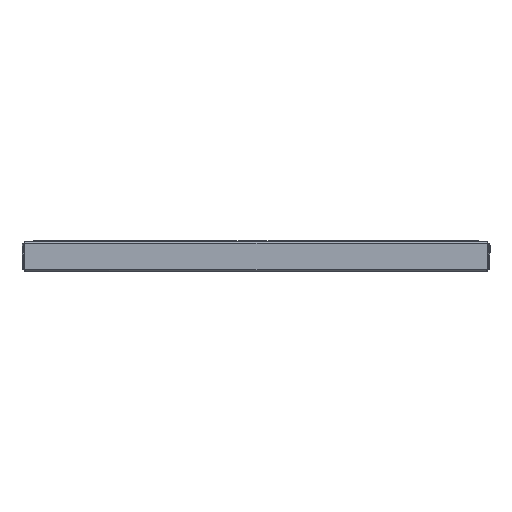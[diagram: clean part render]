
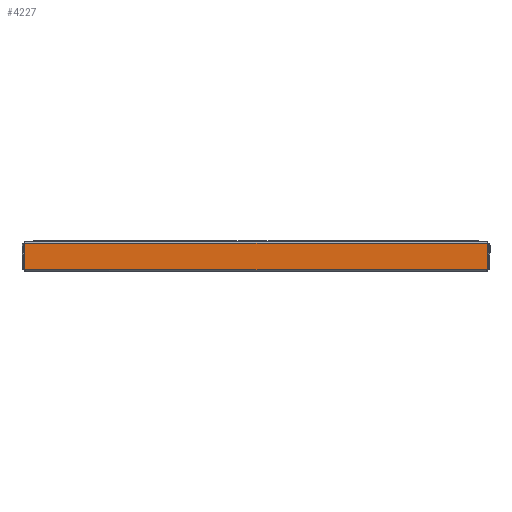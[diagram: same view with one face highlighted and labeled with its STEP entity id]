
A CAD part, top view. The second image highlights one B-rep face of the part: STEP entity #4227.
In plain terms, the highlighted planar face has unit normal (0, 0, 1) as drawn and (0, -1, 0) by its records, which use the part's own axes.
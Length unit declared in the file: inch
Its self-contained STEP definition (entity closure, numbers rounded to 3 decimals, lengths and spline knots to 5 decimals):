
#1261 = ORIENTED_EDGE ( 'NONE', *, *, #2389, .T. ) ;
#1262 = ORIENTED_EDGE ( 'NONE', *, *, #2367, .F. ) ;
#1263 = ORIENTED_EDGE ( 'NONE', *, *, #2323, .F. ) ;
#1264 = ORIENTED_EDGE ( 'NONE', *, *, #2388, .F. ) ;
#1265 = ORIENTED_EDGE ( 'NONE', *, *, #2369, .T. ) ;
#1266 = ORIENTED_EDGE ( 'NONE', *, *, #2377, .T. ) ;
#2323 = EDGE_CURVE ( 'NONE', #10839, #10842, #6397, .T. ) ;
#2367 = EDGE_CURVE ( 'NONE', #10842, #10845, #6474, .T. ) ;
#2369 = EDGE_CURVE ( 'NONE', #10836, #10863, #6478, .T. ) ;
#2377 = EDGE_CURVE ( 'NONE', #10863, #10866, #6494, .T. ) ;
#2388 = EDGE_CURVE ( 'NONE', #10836, #10839, #6516, .T. ) ;
#2389 = EDGE_CURVE ( 'NONE', #10866, #10845, #6477, .T. ) ;
#3031 = EDGE_LOOP ( 'NONE', ( #1261, #1262, #1263, #1264, #1265, #1266 ) ) ;
#4227 = ADVANCED_FACE ( 'NONE', ( #9876 ), #9302, .F. ) ;
#6397 = LINE ( 'NONE', #8617, #6398 ) ;
#6398 = VECTOR ( 'NONE', #8618, 39.37008 ) ;
#6474 = LINE ( 'NONE', #8717, #6475 ) ;
#6475 = VECTOR ( 'NONE', #8718, 39.37008 ) ;
#6477 = LINE ( 'NONE', #8735, #6518 ) ;
#6478 = LINE ( 'NONE', #8721, #6479 ) ;
#6479 = VECTOR ( 'NONE', #8722, 39.37008 ) ;
#6494 = LINE ( 'NONE', #8737, #6495 ) ;
#6495 = VECTOR ( 'NONE', #8738, 39.37008 ) ;
#6516 = LINE ( 'NONE', #8760, #6517 ) ;
#6517 = VECTOR ( 'NONE', #8761, 39.37008 ) ;
#6518 = VECTOR ( 'NONE', #8763, 39.37008 ) ;
#8065 = AXIS2_PLACEMENT_3D ( 'NONE', #9297, #9307, #9308 ) ;
#8617 = CARTESIAN_POINT ( 'NONE',  ( -31.39743, -14.9405, 0.162 ) ) ;
#8618 = DIRECTION ( 'NONE',  ( -1., 0., 0. ) ) ;
#8717 = CARTESIAN_POINT ( 'NONE',  ( -31.40443, -14.9405, 0.162 ) ) ;
#8718 = DIRECTION ( 'NONE',  ( 0., 0., 1. ) ) ;
#8721 = CARTESIAN_POINT ( 'NONE',  ( 31.39743, -14.9405, 0.162 ) ) ;
#8722 = DIRECTION ( 'NONE',  ( 1., 0., 0. ) ) ;
#8735 = CARTESIAN_POINT ( 'NONE',  ( 31.40443, -14.9405, 3.775 ) ) ;
#8737 = CARTESIAN_POINT ( 'NONE',  ( 31.40443, -14.9405, 0.162 ) ) ;
#8738 = DIRECTION ( 'NONE',  ( 0., 0., 1. ) ) ;
#8760 = CARTESIAN_POINT ( 'NONE',  ( -31.4765, -14.9405, 0.162 ) ) ;
#8761 = DIRECTION ( 'NONE',  ( -1., 0., 0. ) ) ;
#8763 = DIRECTION ( 'NONE',  ( -1., 0., 0. ) ) ;
#9297 = CARTESIAN_POINT ( 'NONE',  ( -31.4765, -14.9405, 3.937 ) ) ;
#9302 = PLANE ( 'NONE',  #8065 ) ;
#9307 = DIRECTION ( 'NONE',  ( 0., 1., 0. ) ) ;
#9308 = DIRECTION ( 'NONE',  ( 0., 0., 1. ) ) ;
#9876 = FACE_OUTER_BOUND ( 'NONE', #3031, .T. ) ;
#10836 = VERTEX_POINT ( 'NONE', #11300 ) ;
#10839 = VERTEX_POINT ( 'NONE', #11303 ) ;
#10842 = VERTEX_POINT ( 'NONE', #11306 ) ;
#10845 = VERTEX_POINT ( 'NONE', #11309 ) ;
#10863 = VERTEX_POINT ( 'NONE', #11327 ) ;
#10866 = VERTEX_POINT ( 'NONE', #11330 ) ;
#11300 = CARTESIAN_POINT ( 'NONE',  ( 31.39743, -14.9405, 0.162 ) ) ;
#11303 = CARTESIAN_POINT ( 'NONE',  ( -31.39743, -14.9405, 0.162 ) ) ;
#11306 = CARTESIAN_POINT ( 'NONE',  ( -31.40443, -14.9405, 0.162 ) ) ;
#11309 = CARTESIAN_POINT ( 'NONE',  ( -31.40443, -14.9405, 3.775 ) ) ;
#11327 = CARTESIAN_POINT ( 'NONE',  ( 31.40443, -14.9405, 0.162 ) ) ;
#11330 = CARTESIAN_POINT ( 'NONE',  ( 31.40443, -14.9405, 3.775 ) ) ;
